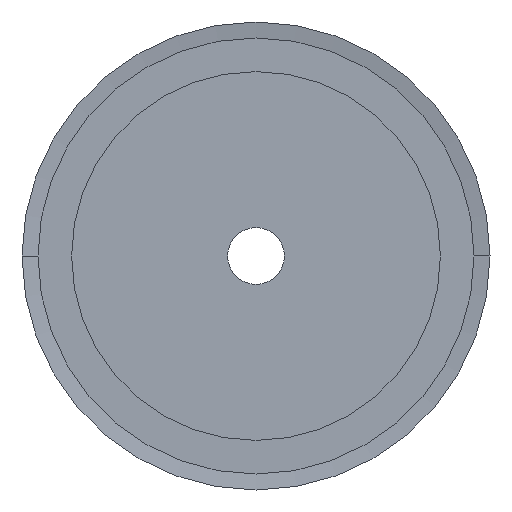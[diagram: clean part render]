
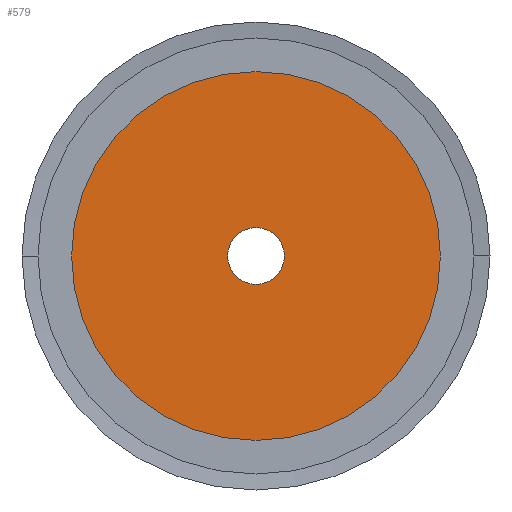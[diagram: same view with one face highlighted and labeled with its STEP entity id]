
A CAD part, left-side view. The second image highlights one B-rep face of the part: STEP entity #579.
In plain terms, the highlighted planar face has unit normal (-1, 0, 0).
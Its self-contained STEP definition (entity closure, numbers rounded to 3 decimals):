
#579 = ADVANCED_FACE( '', ( #1593, #1594 ), #1595, .T. );
#1593 = FACE_BOUND( '', #2608, .T. );
#1594 = FACE_OUTER_BOUND( '', #2609, .T. );
#1595 = PLANE( '', #2610 );
#2608 = EDGE_LOOP( '', ( #6783, #6784 ) );
#2609 = EDGE_LOOP( '', ( #6785, #6786 ) );
#2610 = AXIS2_PLACEMENT_3D( '', #6787, #6788, #6789 );
#6783 = ORIENTED_EDGE( '', *, *, #6909, .T. );
#6784 = ORIENTED_EDGE( '', *, *, #6905, .T. );
#6785 = ORIENTED_EDGE( '', *, *, #6793, .T. );
#6786 = ORIENTED_EDGE( '', *, *, #8121, .T. );
#6787 = CARTESIAN_POINT( '', ( 0., 13., 0. ) );
#6788 = DIRECTION( '', ( -1., 0., 0. ) );
#6789 = DIRECTION( '', ( 0., 1., 0. ) );
#6793 = EDGE_CURVE( '', #8123, #8127, #8129, .T. );
#6905 = EDGE_CURVE( '', #8347, #8344, #8348, .T. );
#6909 = EDGE_CURVE( '', #8344, #8347, #8353, .T. );
#8121 = EDGE_CURVE( '', #8127, #8123, #10285, .T. );
#8123 = VERTEX_POINT( '', #10287 );
#8127 = VERTEX_POINT( '', #10292 );
#8129 = CIRCLE( '', #10295, 26. );
#8344 = VERTEX_POINT( '', #10526 );
#8347 = VERTEX_POINT( '', #10530 );
#8348 = CIRCLE( '', #10531, 4. );
#8353 = CIRCLE( '', #10537, 4. );
#10285 = CIRCLE( '', #13189, 26. );
#10287 = CARTESIAN_POINT( '', ( 0., 26., 0. ) );
#10292 = CARTESIAN_POINT( '', ( 0., -26., 0. ) );
#10295 = AXIS2_PLACEMENT_3D( '', #13195, #13196, #13197 );
#10526 = CARTESIAN_POINT( '', ( 0., 4., 0. ) );
#10530 = CARTESIAN_POINT( '', ( 0., -4., 0. ) );
#10531 = AXIS2_PLACEMENT_3D( '', #13497, #13498, #13499 );
#10537 = AXIS2_PLACEMENT_3D( '', #13507, #13508, #13509 );
#13189 = AXIS2_PLACEMENT_3D( '', #15703, #15704, #15705 );
#13195 = CARTESIAN_POINT( '', ( 0., 0., 0. ) );
#13196 = DIRECTION( '', ( -1., 0., 0. ) );
#13197 = DIRECTION( '', ( 0., 1., 0. ) );
#13497 = CARTESIAN_POINT( '', ( 0., 0., 0. ) );
#13498 = DIRECTION( '', ( 1., 0., 0. ) );
#13499 = DIRECTION( '', ( 0., 1., 0. ) );
#13507 = CARTESIAN_POINT( '', ( 0., 0., 0. ) );
#13508 = DIRECTION( '', ( 1., 0., 0. ) );
#13509 = DIRECTION( '', ( 0., 1., 0. ) );
#15703 = CARTESIAN_POINT( '', ( 0., 0., 0. ) );
#15704 = DIRECTION( '', ( -1., 0., 0. ) );
#15705 = DIRECTION( '', ( 0., 1., 0. ) );
